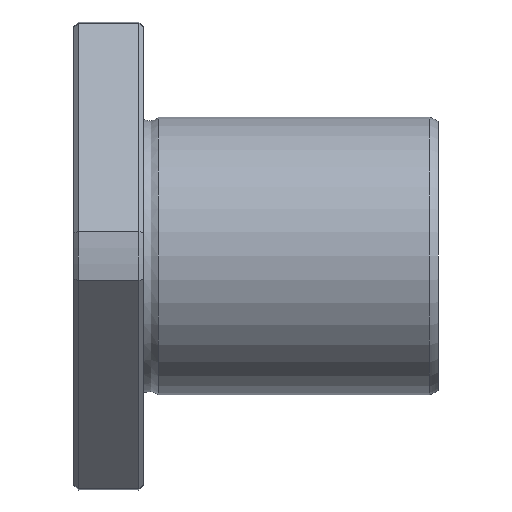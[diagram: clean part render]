
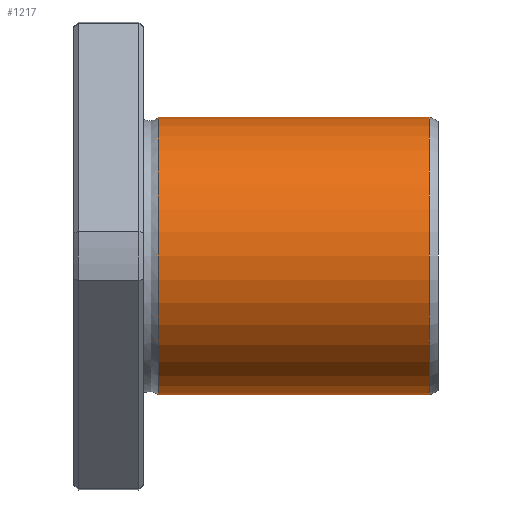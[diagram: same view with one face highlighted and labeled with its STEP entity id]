
A CAD part, front view. The second image highlights one B-rep face of the part: STEP entity #1217.
In plain terms, the highlighted cylindrical face has radius 16 mm (diameter 32 mm), a full revolution.
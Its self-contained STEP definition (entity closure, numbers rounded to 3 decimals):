
#1183=CARTESIAN_POINT('',(40.999,0.0,16.));
#1184=VERTEX_POINT('',#1183);
#1185=CARTESIAN_POINT('',(40.999,0.0,0.0));
#1186=DIRECTION('',(-1.0,0.0,0.0));
#1187=DIRECTION('',(0.0,0.0,1.0));
#1188=AXIS2_PLACEMENT_3D('',#1185,#1186,#1187);
#1189=CIRCLE('',#1188,16.);
#1190=EDGE_CURVE('',#1184,#1184,#1189,.T.);
#1198=CARTESIAN_POINT('',(25.359,0.0,0.0));
#1199=DIRECTION('',(-1.0,0.0,0.0));
#1200=DIRECTION('',(0.0,0.0,1.0));
#1201=AXIS2_PLACEMENT_3D('',#1198,#1199,#1200);
#1202=CYLINDRICAL_SURFACE('',#1201,16.);
#1203=CARTESIAN_POINT('',(9.72,0.0,16.0));
#1204=VERTEX_POINT('',#1203);
#1205=CARTESIAN_POINT('',(9.72,0.0,0.0));
#1206=DIRECTION('',(-1.0,0.0,0.0));
#1207=DIRECTION('',(0.0,0.0,1.0));
#1208=AXIS2_PLACEMENT_3D('',#1205,#1206,#1207);
#1209=CIRCLE('',#1208,16.0);
#1210=EDGE_CURVE('',#1204,#1204,#1209,.T.);
#1211=ORIENTED_EDGE('',*,*,#1210,.F.);
#1212=EDGE_LOOP('',(#1211));
#1213=FACE_OUTER_BOUND('',#1212,.T.);
#1214=ORIENTED_EDGE('',*,*,#1190,.T.);
#1215=EDGE_LOOP('',(#1214));
#1216=FACE_BOUND('',#1215,.T.);
#1217=ADVANCED_FACE('',(#1213,#1216),#1202,.T.);
